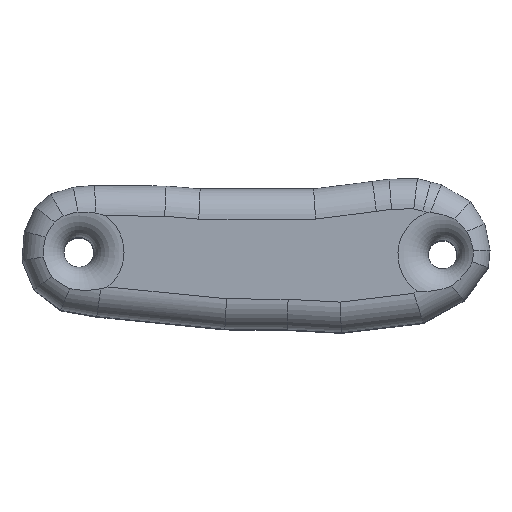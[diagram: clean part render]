
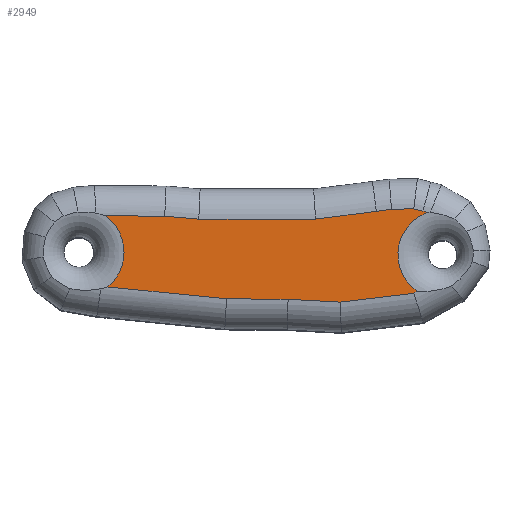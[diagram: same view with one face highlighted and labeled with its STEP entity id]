
A CAD part, top view. The second image highlights one B-rep face of the part: STEP entity #2949.
In plain terms, the highlighted planar face has unit normal (0, 0, 1).
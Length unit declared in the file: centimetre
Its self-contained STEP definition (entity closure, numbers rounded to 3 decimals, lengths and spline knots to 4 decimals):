
#981=VERTEX_POINT('',#5184);
#982=VERTEX_POINT('',#5186);
#992=VERTEX_POINT('',#5254);
#994=VERTEX_POINT('',#5260);
#995=VERTEX_POINT('',#5262);
#996=VERTEX_POINT('',#5264);
#997=VERTEX_POINT('',#5266);
#998=VERTEX_POINT('',#5268);
#999=VERTEX_POINT('',#5270);
#1000=VERTEX_POINT('',#5272);
#1001=VERTEX_POINT('',#5274);
#1002=VERTEX_POINT('',#5276);
#1003=VERTEX_POINT('',#5278);
#1004=VERTEX_POINT('',#5280);
#1005=VERTEX_POINT('',#5282);
#1006=VERTEX_POINT('',#5284);
#1355=EDGE_CURVE('',#981,#982,#3452,.T.);
#1368=EDGE_CURVE('',#982,#992,#3262,.T.);
#1371=EDGE_CURVE('',#994,#981,#3264,.T.);
#1372=EDGE_CURVE('',#995,#994,#3265,.T.);
#1373=EDGE_CURVE('',#996,#995,#3266,.T.);
#1374=EDGE_CURVE('',#997,#996,#3267,.T.);
#1375=EDGE_CURVE('',#998,#997,#3268,.T.);
#1376=EDGE_CURVE('',#999,#998,#3269,.T.);
#1377=EDGE_CURVE('',#1000,#999,#3270,.T.);
#1378=EDGE_CURVE('',#1001,#1000,#3271,.T.);
#1379=EDGE_CURVE('',#1002,#1001,#3454,.T.);
#1380=EDGE_CURVE('',#1003,#1002,#3455,.T.);
#1381=EDGE_CURVE('',#1004,#1003,#3272,.T.);
#1382=EDGE_CURVE('',#1005,#1004,#3273,.T.);
#1383=EDGE_CURVE('',#1006,#1005,#3274,.T.);
#1384=EDGE_CURVE('',#992,#1006,#3275,.T.);
#2063=ORIENTED_EDGE('',*,*,#1355,.F.);
#2064=ORIENTED_EDGE('',*,*,#1371,.F.);
#2065=ORIENTED_EDGE('',*,*,#1372,.F.);
#2066=ORIENTED_EDGE('',*,*,#1373,.F.);
#2067=ORIENTED_EDGE('',*,*,#1374,.F.);
#2068=ORIENTED_EDGE('',*,*,#1375,.F.);
#2069=ORIENTED_EDGE('',*,*,#1376,.F.);
#2070=ORIENTED_EDGE('',*,*,#1377,.F.);
#2071=ORIENTED_EDGE('',*,*,#1378,.F.);
#2072=ORIENTED_EDGE('',*,*,#1379,.F.);
#2073=ORIENTED_EDGE('',*,*,#1380,.F.);
#2074=ORIENTED_EDGE('',*,*,#1381,.F.);
#2075=ORIENTED_EDGE('',*,*,#1382,.F.);
#2076=ORIENTED_EDGE('',*,*,#1383,.F.);
#2077=ORIENTED_EDGE('',*,*,#1384,.F.);
#2078=ORIENTED_EDGE('',*,*,#1368,.F.);
#2594=EDGE_LOOP('',(#2063,#2064,#2065,#2066,#2067,#2068,#2069,#2070,#2071,
#2072,#2073,#2074,#2075,#2076,#2077,#2078));
#2774=FACE_BOUND('',#2594,.T.);
#2949=ADVANCED_FACE('',(#2774),#4145,.T.);
#3262=LINE('',#5253,#4036);
#3264=LINE('',#5259,#4038);
#3265=LINE('',#5261,#4039);
#3266=LINE('',#5263,#4040);
#3267=LINE('',#5265,#4041);
#3268=LINE('',#5267,#4042);
#3269=LINE('',#5269,#4043);
#3270=LINE('',#5271,#4044);
#3271=LINE('',#5273,#4045);
#3272=LINE('',#5279,#4046);
#3273=LINE('',#5281,#4047);
#3274=LINE('',#5283,#4048);
#3275=LINE('',#5285,#4049);
#3452=CIRCLE('',#3739,3.7528);
#3454=CIRCLE('',#3749,3.8003);
#3455=CIRCLE('',#3750,3.8003);
#3739=AXIS2_PLACEMENT_3D('',#5185,#6495,#6496);
#3748=AXIS2_PLACEMENT_3D('',#5258,#6517,$);
#3749=AXIS2_PLACEMENT_3D('',#5275,#6526,#6527);
#3750=AXIS2_PLACEMENT_3D('',#5277,#6528,#6529);
#4036=VECTOR('',#6513,1.);
#4038=VECTOR('',#6518,1.);
#4039=VECTOR('',#6519,1.);
#4040=VECTOR('',#6520,1.);
#4041=VECTOR('',#6521,1.);
#4042=VECTOR('',#6522,1.);
#4043=VECTOR('',#6523,1.);
#4044=VECTOR('',#6524,1.);
#4045=VECTOR('',#6525,1.);
#4046=VECTOR('',#6530,1.);
#4047=VECTOR('',#6531,1.);
#4048=VECTOR('',#6532,1.);
#4049=VECTOR('',#6533,1.);
#4145=PLANE('',#3748);
#5184=CARTESIAN_POINT('',(175.8377,176.3394,50.8));
#5185=CARTESIAN_POINT('',(177.0919,172.8024,50.8));
#5186=CARTESIAN_POINT('',(174.974,169.7043,50.8));
#5253=CARTESIAN_POINT('',(171.7874,167.9539,50.8));
#5254=CARTESIAN_POINT('',(174.6673,169.5359,50.8));
#5258=CARTESIAN_POINT('',(161.4157,172.8783,50.8));
#5259=CARTESIAN_POINT('',(169.3218,178.0541,50.8));
#5260=CARTESIAN_POINT('',(175.4447,176.4428,50.8));
#5261=CARTESIAN_POINT('',(168.7563,178.1876,50.8));
#5262=CARTESIAN_POINT('',(174.6733,176.6441,50.8));
#5263=CARTESIAN_POINT('',(166.9973,176.4874,50.8));
#5264=CARTESIAN_POINT('',(172.7986,176.6058,50.8));
#5265=CARTESIAN_POINT('',(166.3317,175.7138,50.8));
#5266=CARTESIAN_POINT('',(171.5268,176.4304,50.8));
#5267=CARTESIAN_POINT('',(163.8507,175.4521,50.8));
#5268=CARTESIAN_POINT('',(166.4097,175.7782,50.8));
#5269=CARTESIAN_POINT('',(159.0574,175.7782,50.8));
#5270=CARTESIAN_POINT('',(156.5918,175.7782,50.8));
#5271=CARTESIAN_POINT('',(157.625,175.6907,50.8));
#5272=CARTESIAN_POINT('',(153.7216,176.0215,50.8));
#5273=CARTESIAN_POINT('',(154.6243,176.0142,50.8));
#5274=CARTESIAN_POINT('',(148.7518,176.0615,50.8));
#5275=CARTESIAN_POINT('',(146.5053,172.9963,50.8));
#5276=CARTESIAN_POINT('',(150.3056,172.9963,50.8));
#5277=CARTESIAN_POINT('',(146.5053,172.9963,50.8));
#5278=CARTESIAN_POINT('',(148.928,170.0683,50.8));
#5279=CARTESIAN_POINT('',(160.0263,168.9685,50.8));
#5280=CARTESIAN_POINT('',(158.9208,169.0781,50.8));
#5281=CARTESIAN_POINT('',(162.7112,169.043,50.8));
#5282=CARTESIAN_POINT('',(164.0979,169.0301,50.8));
#5283=CARTESIAN_POINT('',(164.9646,168.984,50.8));
#5284=CARTESIAN_POINT('',(168.491,168.7965,50.8));
#5285=CARTESIAN_POINT('',(168.5769,168.8067,50.8));
#6495=DIRECTION('',(0.,0.,1.));
#6496=DIRECTION('',(-3.002,2.252,0.));
#6513=DIRECTION('',(-0.876,-0.481,0.));
#6517=DIRECTION('',(0.,0.,1.));
#6518=DIRECTION('',(0.967,-0.254,0.));
#6519=DIRECTION('',(0.968,-0.252,0.));
#6520=DIRECTION('',(1.,0.02,0.));
#6521=DIRECTION('',(0.991,0.137,0.));
#6522=DIRECTION('',(0.992,0.126,0.));
#6523=DIRECTION('',(1.,0.,0.));
#6524=DIRECTION('',(0.996,-0.084,0.));
#6525=DIRECTION('',(1.,-0.008,0.));
#6526=DIRECTION('',(0.,0.,1.));
#6527=DIRECTION('',(-3.8,0.,0.));
#6528=DIRECTION('',(0.,0.,1.));
#6529=DIRECTION('',(-3.8,0.,0.));
#6530=DIRECTION('',(-0.995,0.099,0.));
#6531=DIRECTION('',(-1.,0.009,0.));
#6532=DIRECTION('',(-0.999,0.053,0.));
#6533=DIRECTION('',(-0.993,-0.119,0.));
